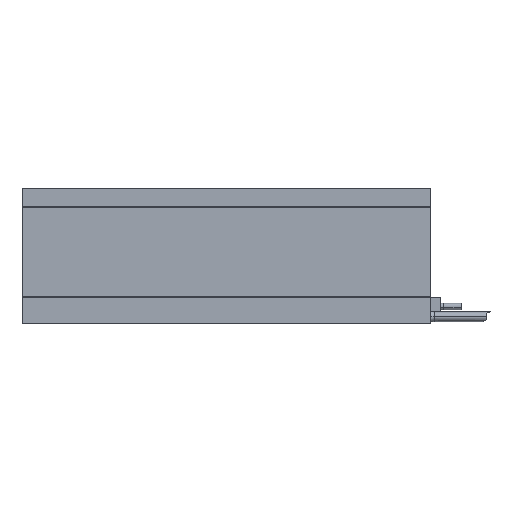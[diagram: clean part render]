
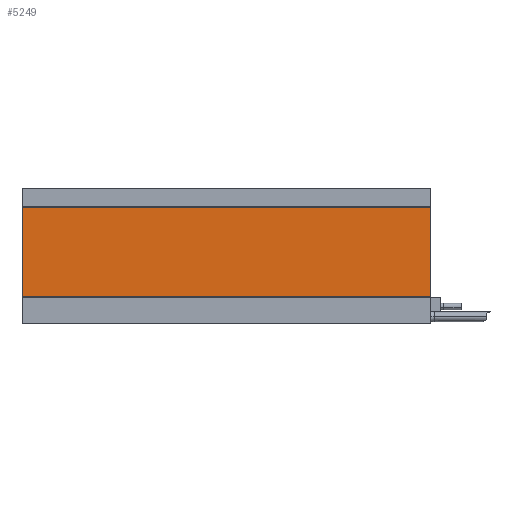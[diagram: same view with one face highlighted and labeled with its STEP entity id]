
A CAD part, top view. The second image highlights one B-rep face of the part: STEP entity #5249.
In plain terms, the highlighted planar face has unit normal (0, 0, 1).
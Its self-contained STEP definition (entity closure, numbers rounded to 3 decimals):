
#587 = ORIENTED_EDGE ( 'NONE', *, *, #8327, .F. ) ;
#660 = FACE_OUTER_BOUND ( 'NONE', #6738, .T. ) ;
#840 = DIRECTION ( 'NONE',  ( 0., -1., 0. ) ) ;
#918 = CARTESIAN_POINT ( 'NONE',  ( 156.903, 66.803, 43.079 ) ) ;
#1288 = CARTESIAN_POINT ( 'NONE',  ( -84.097, 119.703, 43.079 ) ) ;
#1664 = LINE ( 'NONE', #5053, #5870 ) ;
#2019 = DIRECTION ( 'NONE',  ( 1., 0., 0. ) ) ;
#2131 = CARTESIAN_POINT ( 'NONE',  ( -84.097, 66.803, 43.079 ) ) ;
#2392 = VECTOR ( 'NONE', #3547, 1000. ) ;
#2558 = VERTEX_POINT ( 'NONE', #4095 ) ;
#2593 = VECTOR ( 'NONE', #840, 1000. ) ;
#2716 = VERTEX_POINT ( 'NONE', #4406 ) ;
#2718 = CARTESIAN_POINT ( 'NONE',  ( -84.097, 119.703, 43.079 ) ) ;
#2720 = DIRECTION ( 'NONE',  ( 0., 1., 0. ) ) ;
#2742 = VERTEX_POINT ( 'NONE', #2718 ) ;
#2866 = ORIENTED_EDGE ( 'NONE', *, *, #6711, .F. ) ;
#3245 = DIRECTION ( 'NONE',  ( 1., 0., 0. ) ) ;
#3375 = AXIS2_PLACEMENT_3D ( 'NONE', #2131, #6901, #2720 ) ;
#3547 = DIRECTION ( 'NONE',  ( 0., -1., 0. ) ) ;
#4095 = CARTESIAN_POINT ( 'NONE',  ( -84.097, 66.803, 43.079 ) ) ;
#4135 = ORIENTED_EDGE ( 'NONE', *, *, #5410, .T. ) ;
#4222 = LINE ( 'NONE', #7803, #2392 ) ;
#4298 = LINE ( 'NONE', #918, #2593 ) ;
#4406 = CARTESIAN_POINT ( 'NONE',  ( 156.903, 119.703, 43.079 ) ) ;
#4717 = VERTEX_POINT ( 'NONE', #8781 ) ;
#5053 = CARTESIAN_POINT ( 'NONE',  ( -84.097, 66.803, 43.079 ) ) ;
#5249 = ADVANCED_FACE ( 'NONE', ( #660 ), #6862, .F. ) ;
#5310 = ORIENTED_EDGE ( 'NONE', *, *, #7875, .T. ) ;
#5410 = EDGE_CURVE ( 'NONE', #2742, #2558, #4222, .T. ) ;
#5870 = VECTOR ( 'NONE', #3245, 1000. ) ;
#6711 = EDGE_CURVE ( 'NONE', #2742, #2716, #7380, .T. ) ;
#6738 = EDGE_LOOP ( 'NONE', ( #587, #2866, #4135, #5310 ) ) ;
#6862 = PLANE ( 'NONE',  #3375 ) ;
#6901 = DIRECTION ( 'NONE',  ( 0., 0., -1. ) ) ;
#7380 = LINE ( 'NONE', #1288, #8238 ) ;
#7803 = CARTESIAN_POINT ( 'NONE',  ( -84.097, 66.803, 43.079 ) ) ;
#7875 = EDGE_CURVE ( 'NONE', #2558, #4717, #1664, .T. ) ;
#8238 = VECTOR ( 'NONE', #2019, 1000. ) ;
#8327 = EDGE_CURVE ( 'NONE', #2716, #4717, #4298, .T. ) ;
#8781 = CARTESIAN_POINT ( 'NONE',  ( 156.903, 66.803, 43.079 ) ) ;
